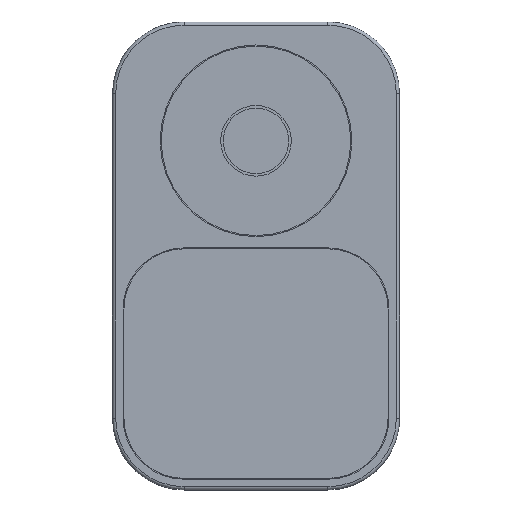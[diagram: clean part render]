
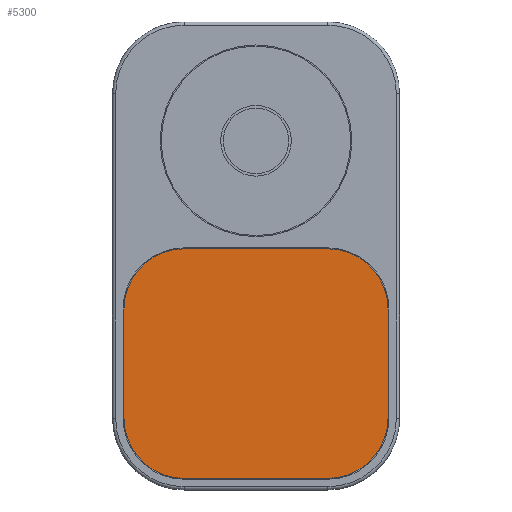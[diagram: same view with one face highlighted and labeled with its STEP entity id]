
A CAD part, top view. The second image highlights one B-rep face of the part: STEP entity #5300.
In plain terms, the highlighted planar face has unit normal (0, 0, 1).
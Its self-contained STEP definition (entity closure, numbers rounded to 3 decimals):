
#5262 = EDGE_CURVE('',#5263,#5265,#5267,.T.);
#5263 = VERTEX_POINT('',#5264);
#5264 = CARTESIAN_POINT('',(2.,11.,14.2));
#5265 = VERTEX_POINT('',#5266);
#5266 = CARTESIAN_POINT('',(12.5,0.5,14.2));
#5267 = CIRCLE('',#5268,10.5);
#5268 = AXIS2_PLACEMENT_3D('',#5269,#5270,#5271);
#5269 = CARTESIAN_POINT('',(12.5,11.,14.2));
#5270 = DIRECTION('',(0.,0.,1.));
#5271 = DIRECTION('',(1.,0.,-0.));
#5300 = ADVANCED_FACE('',(#5301),#5361,.T.);
#5301 = FACE_BOUND('',#5302,.T.);
#5302 = EDGE_LOOP('',(#5303,#5304,#5312,#5321,#5329,#5338,#5346,#5355));
#5303 = ORIENTED_EDGE('',*,*,#5262,.T.);
#5304 = ORIENTED_EDGE('',*,*,#5305,.T.);
#5305 = EDGE_CURVE('',#5265,#5306,#5308,.T.);
#5306 = VERTEX_POINT('',#5307);
#5307 = CARTESIAN_POINT('',(37.5,0.5,14.2));
#5308 = LINE('',#5309,#5310);
#5309 = CARTESIAN_POINT('',(12.5,0.5,14.2));
#5310 = VECTOR('',#5311,1.);
#5311 = DIRECTION('',(1.,0.,-0.));
#5312 = ORIENTED_EDGE('',*,*,#5313,.T.);
#5313 = EDGE_CURVE('',#5306,#5314,#5316,.T.);
#5314 = VERTEX_POINT('',#5315);
#5315 = CARTESIAN_POINT('',(48.,11.,14.2));
#5316 = CIRCLE('',#5317,10.5);
#5317 = AXIS2_PLACEMENT_3D('',#5318,#5319,#5320);
#5318 = CARTESIAN_POINT('',(37.5,11.,14.2));
#5319 = DIRECTION('',(0.,0.,1.));
#5320 = DIRECTION('',(1.,0.,-0.));
#5321 = ORIENTED_EDGE('',*,*,#5322,.T.);
#5322 = EDGE_CURVE('',#5314,#5323,#5325,.T.);
#5323 = VERTEX_POINT('',#5324);
#5324 = CARTESIAN_POINT('',(48.,30.,14.2));
#5325 = LINE('',#5326,#5327);
#5326 = CARTESIAN_POINT('',(48.,11.,14.2));
#5327 = VECTOR('',#5328,1.);
#5328 = DIRECTION('',(-0.,1.,0.));
#5329 = ORIENTED_EDGE('',*,*,#5330,.T.);
#5330 = EDGE_CURVE('',#5323,#5331,#5333,.T.);
#5331 = VERTEX_POINT('',#5332);
#5332 = CARTESIAN_POINT('',(37.5,40.5,14.2));
#5333 = CIRCLE('',#5334,10.5);
#5334 = AXIS2_PLACEMENT_3D('',#5335,#5336,#5337);
#5335 = CARTESIAN_POINT('',(37.5,30.,14.2));
#5336 = DIRECTION('',(0.,0.,1.));
#5337 = DIRECTION('',(1.,0.,-0.));
#5338 = ORIENTED_EDGE('',*,*,#5339,.F.);
#5339 = EDGE_CURVE('',#5340,#5331,#5342,.T.);
#5340 = VERTEX_POINT('',#5341);
#5341 = CARTESIAN_POINT('',(12.5,40.5,14.2));
#5342 = LINE('',#5343,#5344);
#5343 = CARTESIAN_POINT('',(12.5,40.5,14.2));
#5344 = VECTOR('',#5345,1.);
#5345 = DIRECTION('',(1.,0.,-0.));
#5346 = ORIENTED_EDGE('',*,*,#5347,.T.);
#5347 = EDGE_CURVE('',#5340,#5348,#5350,.T.);
#5348 = VERTEX_POINT('',#5349);
#5349 = CARTESIAN_POINT('',(2.,30.,14.2));
#5350 = CIRCLE('',#5351,10.5);
#5351 = AXIS2_PLACEMENT_3D('',#5352,#5353,#5354);
#5352 = CARTESIAN_POINT('',(12.5,30.,14.2));
#5353 = DIRECTION('',(0.,0.,1.));
#5354 = DIRECTION('',(1.,0.,-0.));
#5355 = ORIENTED_EDGE('',*,*,#5356,.F.);
#5356 = EDGE_CURVE('',#5263,#5348,#5357,.T.);
#5357 = LINE('',#5358,#5359);
#5358 = CARTESIAN_POINT('',(2.,11.,14.2));
#5359 = VECTOR('',#5360,1.);
#5360 = DIRECTION('',(-0.,1.,0.));
#5361 = PLANE('',#5362);
#5362 = AXIS2_PLACEMENT_3D('',#5363,#5364,#5365);
#5363 = CARTESIAN_POINT('',(25.,20.5,14.2));
#5364 = DIRECTION('',(0.,0.,1.));
#5365 = DIRECTION('',(1.,0.,-0.));
